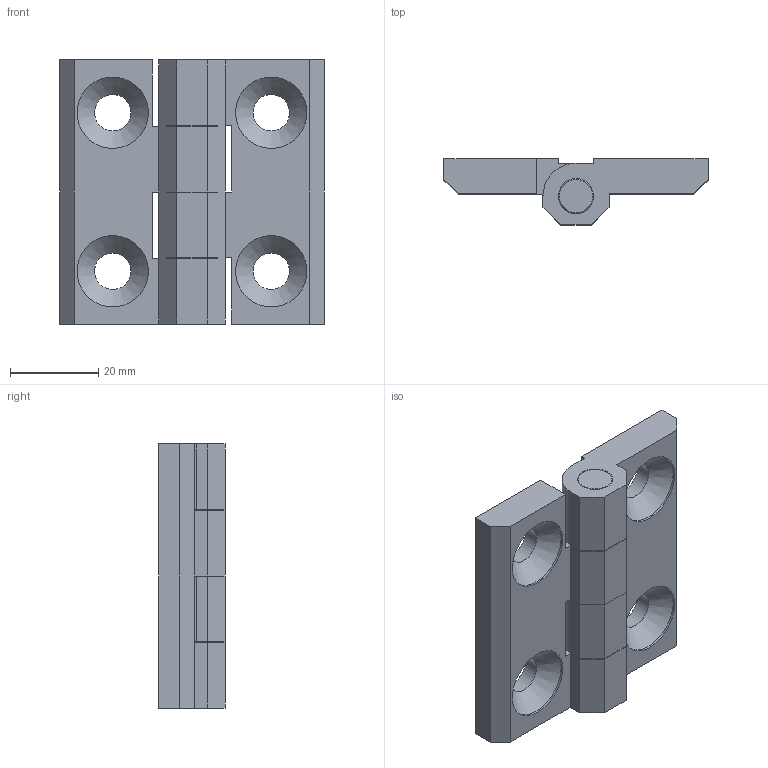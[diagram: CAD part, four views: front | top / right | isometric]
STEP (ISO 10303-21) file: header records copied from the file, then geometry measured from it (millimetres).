
FILE_DESCRIPTION( ( 'STEP AP203' ), '1' );
FILE_NAME( 'C:/Temp/Ganter_Step_05_03_2020/data/3_3/gn_237/gn_237_al/Aluminum-Hinge GN 237-AL-60-60-A-EL (0).stp', '2020-03-12T11:57:06', ( 'License CC BY-ND 4.0' ), ( 'CADENAS' ), ' ', 'PARTsolutions', ' ' );
FILE_SCHEMA( ( 'CONFIG_CONTROL_DESIGN' ) );
Length unit declared in the file: millimetre
Products named in the file (3): Aluminum-Hinge GN 237-AL-60-60-A-EL (0); _Aluminum-Hinge GN 237-AL-60-60-A-EL (0)_1; _Aluminum-Hinge GN 237-AL-60-60-A-EL (0)_2
Assembly tree (2 placements, depth 2):
  Aluminum-Hinge GN 237-AL-60-60-A-EL (0)
    _Aluminum-Hinge GN 237-AL-60-60-A-EL (0)_1
    _Aluminum-Hinge GN 237-AL-60-60-A-EL (0)_2
Bounding box: 60 x 15 x 60 mm (x, y, z)
Volume: 28234.3 mm3; surface area: 12801.2 mm2
Topology: 2 solids, 2 shells, 75 faces, 200 edges, 131 vertices
Faces by surface type: plane 52, cylinder 17, cone 6
Full cylindrical faces by diameter (mm): 8 x5, 8.3 x4, 16.2 x4
Entity records: 2328 total; most frequent: CARTESIAN_POINT 384, DIRECTION 370, ORIENTED_EDGE 356, EDGE_CURVE 178, LINE 142, VECTOR 142, VERTEX_POINT 128, AXIS2_PLACEMENT_3D 114
